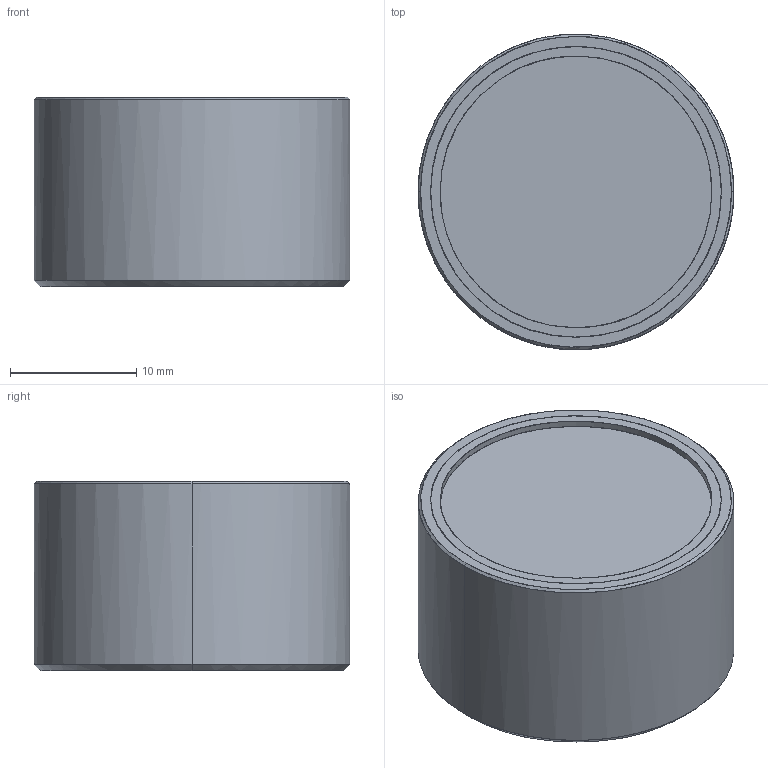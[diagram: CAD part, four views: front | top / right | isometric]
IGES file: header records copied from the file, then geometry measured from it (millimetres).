
Global section: file name: E:\UnigraphicsGraphicData\MISUMI_PRESS-PARTS\IGES\3d_hxu25_00551_r00.igs; native system: NX V5.0; preprocessor: UGS NX IGES V5.0; author: MISUMI; date: 20110105.161100; units: millimetre
Bounding box: 25 x 24.96 x 15 mm (x, y, z)
Surface area: 4590.7 mm2 (no closed solid volume)
Topology: 0 solids, 0 shells, 26 faces, 184 edges, 184 vertices
Faces by surface type: bspline 26
